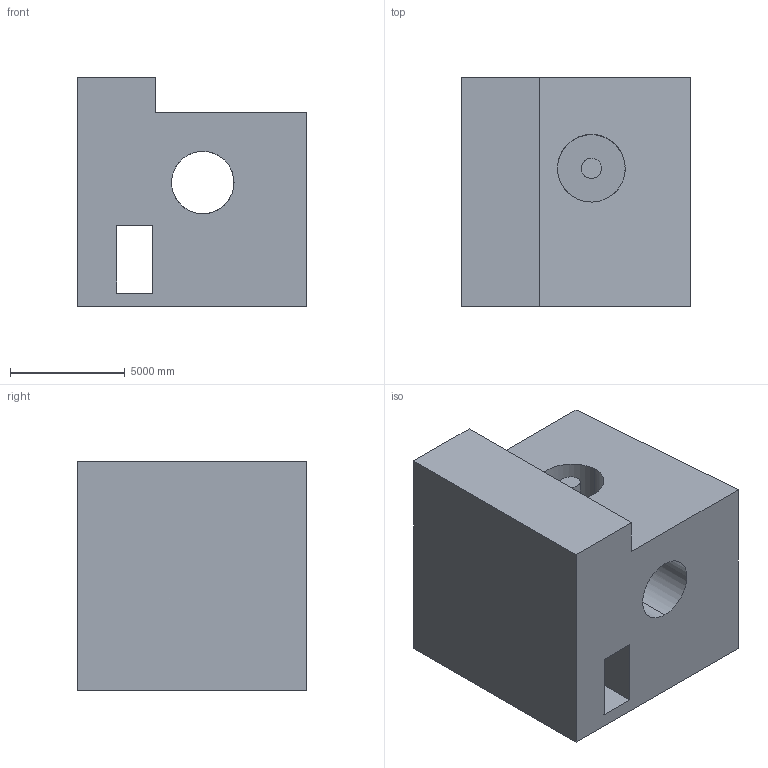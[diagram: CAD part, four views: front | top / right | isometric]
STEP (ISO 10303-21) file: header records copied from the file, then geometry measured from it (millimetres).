
FILE_DESCRIPTION (( 'STEP AP203' ), '1' );
FILE_NAME ('314.STEP', '2022-09-07T12:48:32', ( 'user' ), ( '' ), 'SwSTEP 2.0', 'SolidWorks 2021', '' );
FILE_SCHEMA (( 'CONFIG_CONTROL_DESIGN' ));
Length unit declared in the file: centimetre
Products named in the file (1): 314
Bounding box: 10000 x 10000 x 10000 mm (x, y, z)
Volume: 730527700750.5 mm3; surface area: 776547433.8 mm2
Topology: 2 solids, 2 shells, 36 faces, 99 edges, 66 vertices
Faces by surface type: plane 23, cylinder 13
Entity records: 2422 total; most frequent: CARTESIAN_POINT 1435, ORIENTED_EDGE 198, DIRECTION 168, EDGE_CURVE 99, LINE 72, VECTOR 72, VERTEX_POINT 66, AXIS2_PLACEMENT_3D 48
